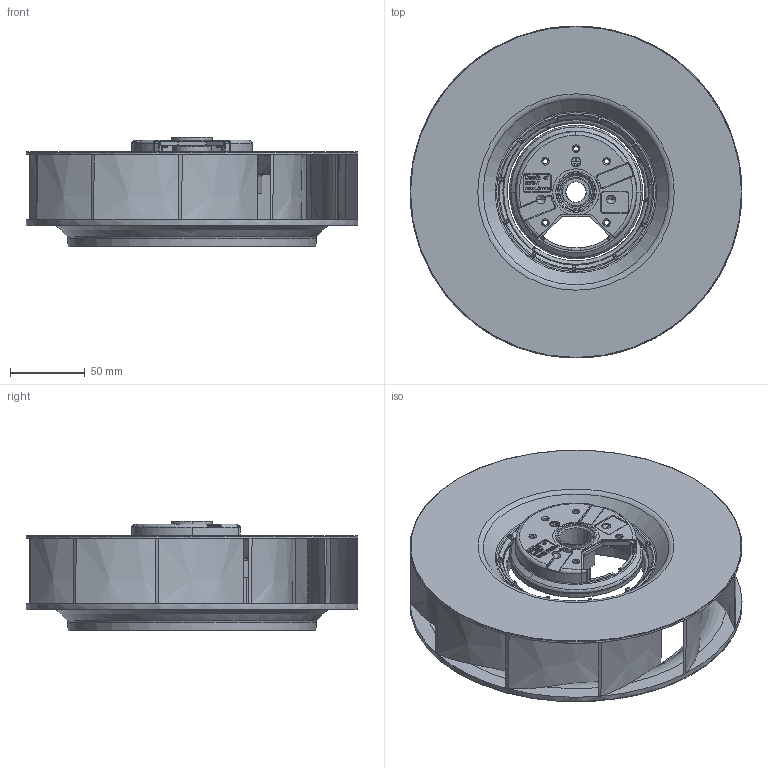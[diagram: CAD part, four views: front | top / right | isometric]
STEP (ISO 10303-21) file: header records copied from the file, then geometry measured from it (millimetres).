
FILE_DESCRIPTION(/* description */ (''),/* implementation_level */ '2;1');
FILE_NAME(/* name */ '22171离心机.stp',/* time_stamp */ '2025-06-19T10:32:28+08:00',/* author */ (''),/* organization */ (''),/* preprocessor_version */ 'ST-DEVELOPER v16',/* originating_system */ 'SIEMENS PLM Software NX 10.0',/* authorisation */ '');
FILE_SCHEMA (('CONFIG_CONTROL_DESIGN'));
Products named in the file (1): 22070_stp
Bounding box: 221.95 x 221.98 x 73.3 mm (x, y, z)
Volume: 213927.6 mm3; surface area: 223453.8 mm2
Topology: 2 solids, 2 shells, 1180 faces, 3295 edges, 2138 vertices
Faces by surface type: plane 449, cone 234, cylinder 184, torus 168, extrusion 126, bspline 18, sphere 1
Entity records: 46863 total; most frequent: CARTESIAN_POINT 21790, ORIENTED_EDGE 6482, EDGE_CURVE 3241, DIRECTION 3168, B_SPLINE_CURVE_WITH_KNOTS 2770, VERTEX_POINT 2114, AXIS2_PLACEMENT_3D 1424, EDGE_LOOP 1271
